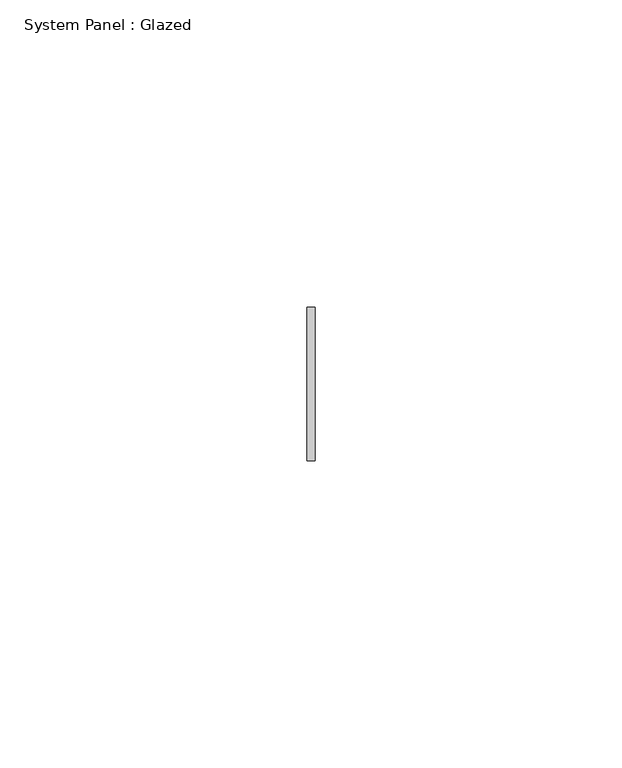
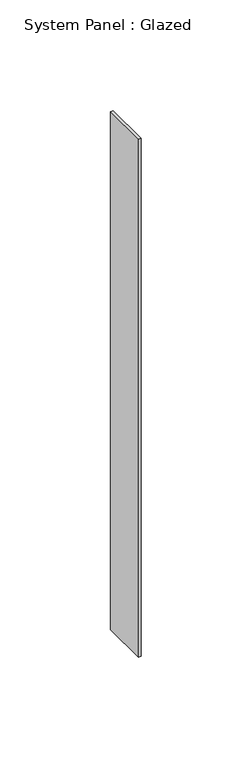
"""IFC4 building model written with IfcOpenShell, lengths in millimetres: plate geometry, System Panel : Glazed."""

from ifc_helpers import new_model, si_unit, origin, origin_with_axes, place, context, project, spatial, polyline, outline, extrude, source, transform, mapped, element, save


def system_panel_glazed_cb251399(model_context):
    return source(origin(), model_context, "Body", "SweptSolid", [
        extrude(outline(polyline([(0.6581169, -12.5), (-0.6581169, -12.5), (-0.6581169, 12.5), (0.6581169, 12.5), (0.6581169, -12.5)])), origin_with_axes(), (0.0, 0.0, 1.0), 285.0),
    ])


if __name__ == "__main__":
    model = new_model("IFC4")
    model_context = context("Model", 3, world=origin())
    ifc_project = project(units=[si_unit("LENGTHUNIT", "METRE", prefix="MILLI")], contexts=[model_context])
    site = spatial("IfcSite", under=ifc_project)
    building = spatial("IfcBuilding", under=site)
    placement = place(None, origin())
    system_panel_glazed_shape = system_panel_glazed_cb251399(model_context)
    element("IfcPlate", 1, ObjectType="System Panel : Glazed", at=placement, inside=building, context=model_context, shape_type="MappedRepresentation", body=[
        mapped(system_panel_glazed_shape, transform((0.0, 0.0, 0.0), x_axis=(1.0, 0.0, 0.0), y_axis=(0.0, 1.0, 0.0), z_axis=(0.0, 0.0, 1.0))),
    ])
    save(model, "model.ifc")
